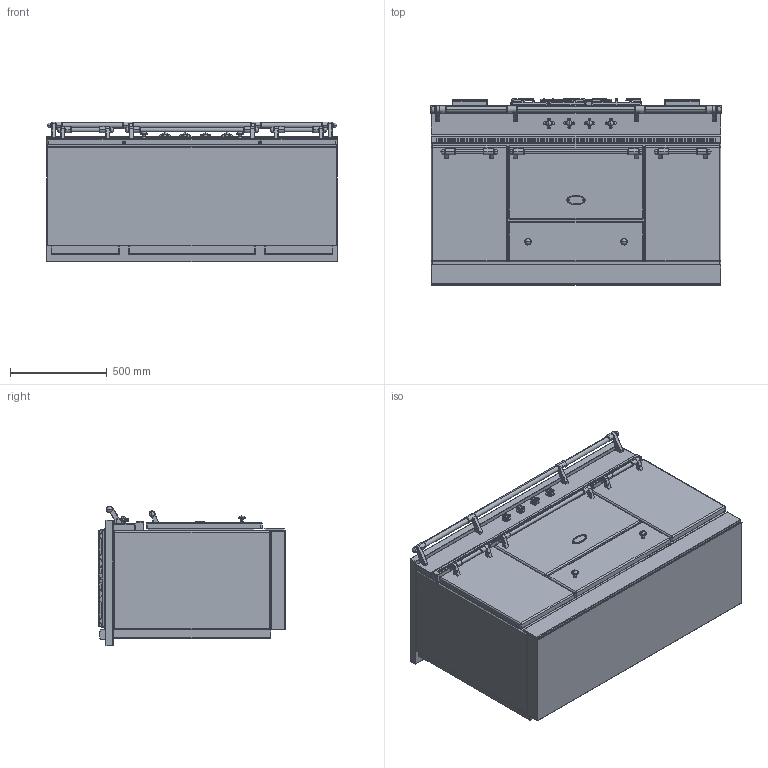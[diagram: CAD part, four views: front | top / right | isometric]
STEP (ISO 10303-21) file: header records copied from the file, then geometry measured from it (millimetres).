
FILE_DESCRIPTION((''),'2;1');
FILE_NAME('LG1531__ASM','2021-12-08T08:43:25',('r.avril'),(''),'CREO PARAMETRIC BY PTC INC, 2017260','CREO PARAMETRIC BY PTC INC, 2017260','');
FILE_SCHEMA(('AP203_CONFIGURATION_CONTROLLED_3D_DESIGN_OF_MECHANICAL_PARTS_AND_ASSEMBLIES_MIM_LF { 1 0 10303 403 2 1 2 }'));
Products named in the file (28): BASE_EXPORT_FONTENAY_LG1531; 65650003; 65650004; 65650006; 65650007; 6531940; 6531941; 6531943; 65049009; 65650001; 6538399; 1931942; 65080022_AF0; 6531942_ASM; BASE_EXPORT_FONTENAY_LG1531_ASM; TABLE_1505_CLASSIQUE_3_FEUX; 5KW; 1_5KW; 3KW; 6537025; 65149005; 90000488_ASM; 6537023; 90000565_ASM; CHEMINEE_2020_LG182_EXPORT_STEP; CHEMINEE_2020_LG371_EXPORT_STEP; TABLE_1505_CLASSIQUE_3_FEUX_ASM; LG1531__ASM
Assembly tree (44 placements, depth 4):
  LG1531__ASM
    BASE_EXPORT_FONTENAY_LG1531_ASM
      BASE_EXPORT_FONTENAY_LG1531
      65650003
      65650004
      65650006
      65650007
      6531940  x3
      6531941  x3
      6531943  x2
      65049009
      65650001
      6531942_ASM  x4
        6538399
        1931942
        65080022_AF0
    TABLE_1505_CLASSIQUE_3_FEUX_ASM
      TABLE_1505_CLASSIQUE_3_FEUX
      5KW
      1_5KW
      3KW
      90000488_ASM  x2
        6537025
        65149005
      90000565_ASM
        6537023
        65149005  x4
      CHEMINEE_2020_LG182_EXPORT_STEP  x2
      CHEMINEE_2020_LG371_EXPORT_STEP
Bounding box: 1505 x 965 x 724 mm (x, y, z)
Volume: 549362399.9 mm3; surface area: 13365447.3 mm2
Topology: 57 solids, 69 shells, 6183 faces, 15910 edges, 9828 vertices
Faces by surface type: plane 2412, cylinder 2059, bspline 828, torus 272, cone 264, sphere 198, extrusion 134, revolution 16
Entity records: 168163 total; most frequent: CARTESIAN_POINT 51389, ORIENTED_EDGE 20094, DIRECTION 18432, EDGE_CURVE 10061, AXIS2_PLACEMENT_3D 6386, VERTEX_POINT 6236, VECTOR 5573, LINE 5523
